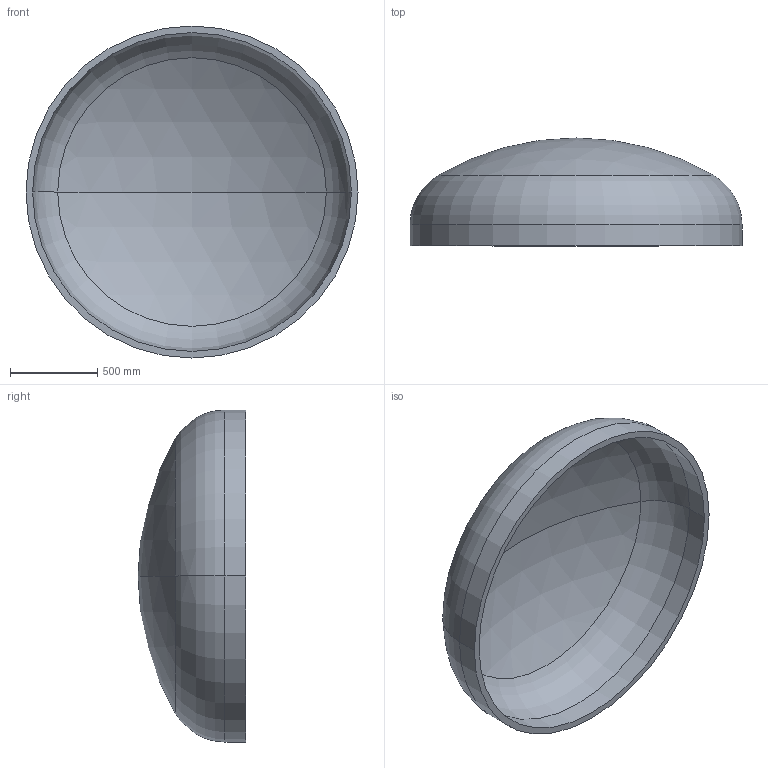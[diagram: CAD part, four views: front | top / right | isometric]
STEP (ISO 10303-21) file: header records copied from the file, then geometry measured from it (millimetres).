
FILE_DESCRIPTION (( 'STEP AP203' ), '1' );
FILE_NAME ('DIN 28013 Korbbogenform_-_Boden DIN 28013 - 1900 x 120 - I - s=38.step', '2016-07-01T13:07:37', ( '' ), ( '' ), 'SwSTEP 2.0', 'SolidWorks 2013', '' );
FILE_SCHEMA (( 'CONFIG_CONTROL_DESIGN' ));
Length unit declared in the file: millimetre
Products named in the file (1): DIN 28013 Korbbogenform_-_Boden DIN 28013 - 1900 x 120 - I - s=38
Bounding box: 1900 x 616.86 x 1900 mm (x, y, z)
Volume: 171759913.6 mm3; surface area: 9265303.4 mm2
Topology: 1 solids, 1 shells, 13 faces, 24 edges, 14 vertices
Faces by surface type: torus 4, cylinder 4, sphere 4, plane 1
Entity records: 407 total; most frequent: DIRECTION 72, CARTESIAN_POINT 52, ORIENTED_EDGE 48, AXIS2_PLACEMENT_3D 34, EDGE_CURVE 24, CIRCLE 20, EDGE_LOOP 14, VERTEX_POINT 14
